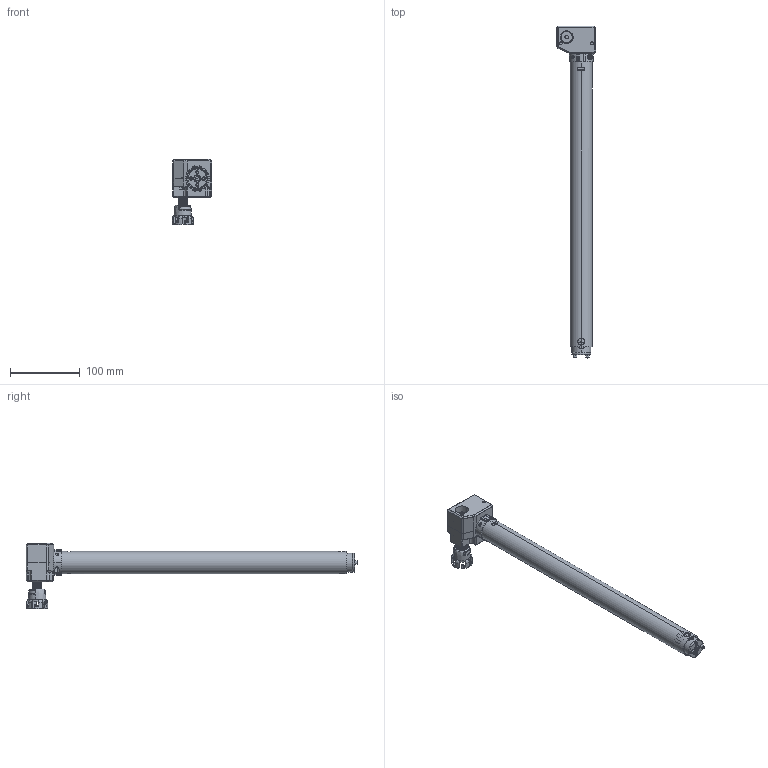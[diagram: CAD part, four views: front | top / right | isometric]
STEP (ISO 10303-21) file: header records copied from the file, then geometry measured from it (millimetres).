
FILE_DESCRIPTION (( 'STEP AP203' ), '1' );
FILE_NAME ('3D_TBS10_L.STEP', '2018-12-11T11:02:08', ( '' ), ( '' ), 'SwSTEP 2.0', 'SolidWorks 2015', '' );
FILE_SCHEMA (( 'CONFIG_CONTROL_DESIGN' ));
Length unit declared in the file: millimetre
Products named in the file (1): 3D_TBS10_L
Bounding box: 56.67 x 476.5 x 93.45 mm (x, y, z)
Volume: 419187.4 mm3; surface area: 110342.4 mm2
Topology: 12 solids, 14 shells, 3797 faces, 10274 edges, 6530 vertices
Faces by surface type: cylinder 1852, plane 1117, bspline 554, torus 179, cone 53, sphere 42
Entity records: 134116 total; most frequent: CARTESIAN_POINT 41306, ORIENTED_EDGE 20428, DIRECTION 18813, EDGE_CURVE 10214, AXIS2_PLACEMENT_3D 7057, VERTEX_POINT 6518, VECTOR 4699, LINE 4699
